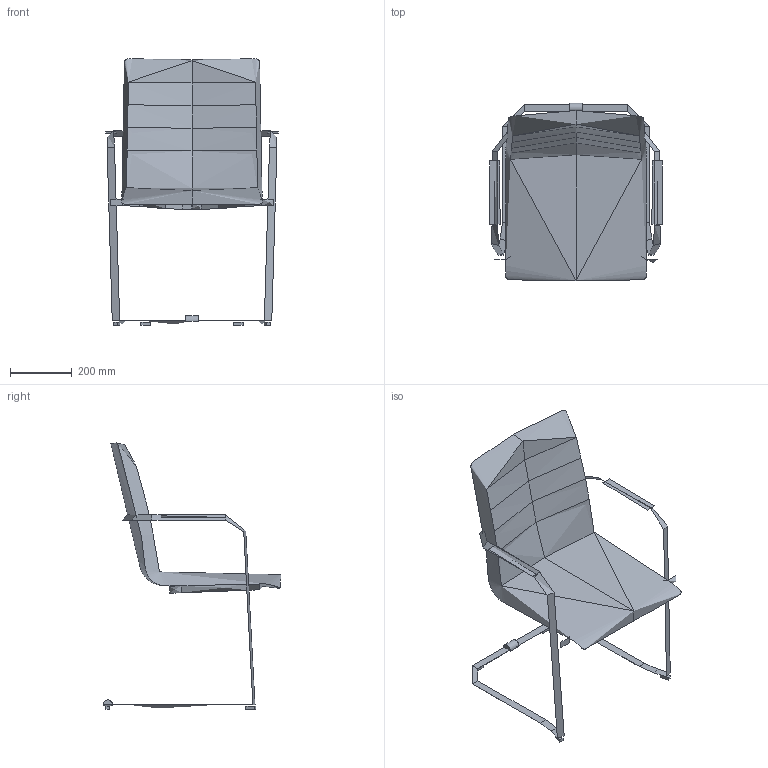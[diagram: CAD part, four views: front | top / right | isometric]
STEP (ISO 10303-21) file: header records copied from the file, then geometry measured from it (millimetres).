
FILE_DESCRIPTION(/* description */ (''),/* implementation_level */ '2;1');
FILE_NAME(/* name */ 'OSF7D6~1',/* time_stamp */ '2017-08-07T21:11:51+02:00',/* author */ (''),/* organization */ (''),/* preprocessor_version */ 'ST-DEVELOPER v15',/* originating_system */ '',/* authorisation */ '');
FILE_SCHEMA (('CONFIG_CONTROL_DESIGN'));
Length unit declared in the file: millimetre
Products named in the file (1): Document
Bounding box: 559 x 574.15 x 861.27 mm (x, y, z)
Volume: 17178877.5 mm3; surface area: 1343042.3 mm2
Topology: 8 solids, 12 shells, 114 faces, 236 edges, 139 vertices
Faces by surface type: bspline 83, plane 31
Entity records: 9947 total; most frequent: CARTESIAN_POINT 8449, ORIENTED_EDGE 450, EDGE_CURVE 233, VERTEX_POINT 135, ADVANCED_FACE 114, FACE_OUTER_BOUND 114, EDGE_LOOP 114, B_SPLINE_CURVE_WITH_KNOTS 97
